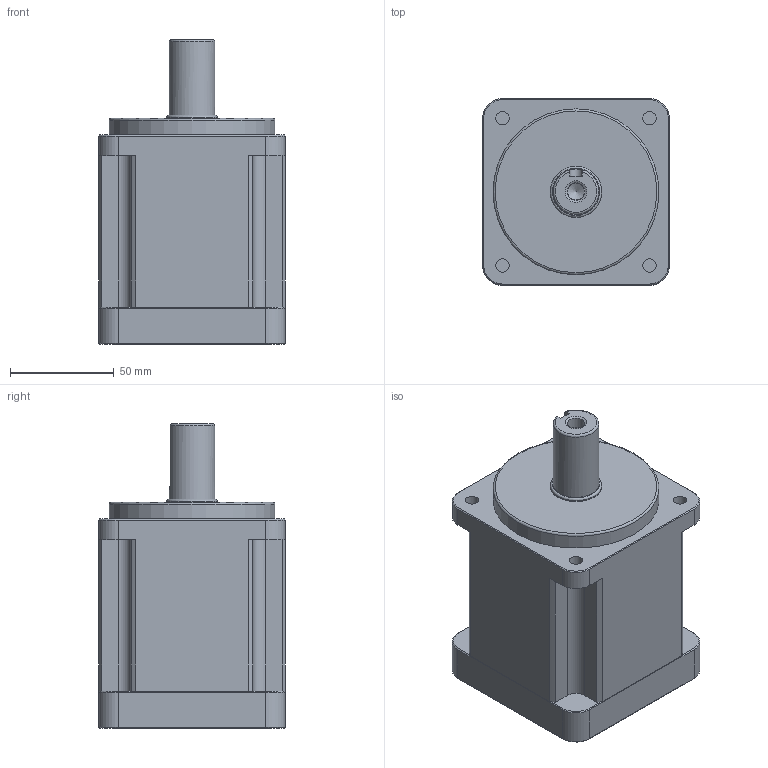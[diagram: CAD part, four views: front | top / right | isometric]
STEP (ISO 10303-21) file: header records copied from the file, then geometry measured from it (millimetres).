
FILE_DESCRIPTION((''),'2;1');
FILE_NAME('D:\유성\유성\도면\3D\2. 홈페이지용 3D 도면 (ipt)\외부도\SPI090 1단\SPI(H)090 SERIES (1 STAGE-KA TYPE)_Shrinkwrap_1.stp','2014-05-08T13:28:41',('nagyu'),(''),'Autodesk Inventor 2013','Autodesk Inventor 2013','');
FILE_SCHEMA(('AUTOMOTIVE_DESIGN { 1 0 10303 214 1 1 1 1 }'));
Length unit declared in the file: millimetre
Products named in the file (1): SPI(H)090 SERIES (1 STAGE-KA TYPE)_Shrinkwrap_1
Bounding box: 90 x 90 x 147 mm (x, y, z)
Volume: 738695.9 mm3; surface area: 68372.7 mm2
Topology: 1 solids, 1 shells, 129 faces, 320 edges, 198 vertices
Faces by surface type: plane 62, cylinder 41, cone 23, torus 3
Full cylindrical faces by diameter (mm): 4.917 x4, 6.5 x4, 8 x1, 8.5 x1, 10 x1, 19 x1, 22 x2, 24.8 x1, 64 x1, 70 x1, 80 x1
Entity records: 3665 total; most frequent: CARTESIAN_POINT 666, DIRECTION 649, ORIENTED_EDGE 558, EDGE_CURVE 279, AXIS2_PLACEMENT_3D 245, VERTEX_POINT 188, EDGE_LOOP 177, VECTOR 159
